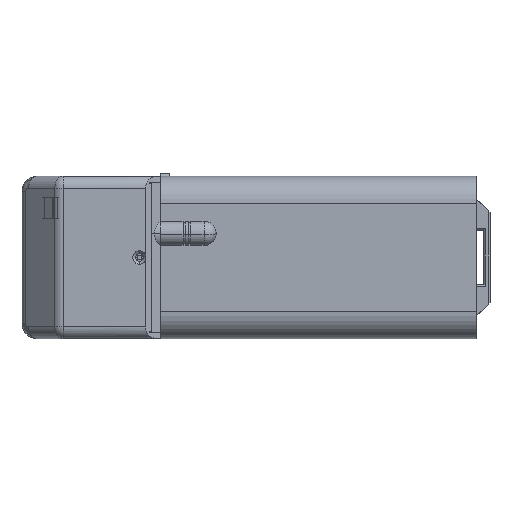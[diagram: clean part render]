
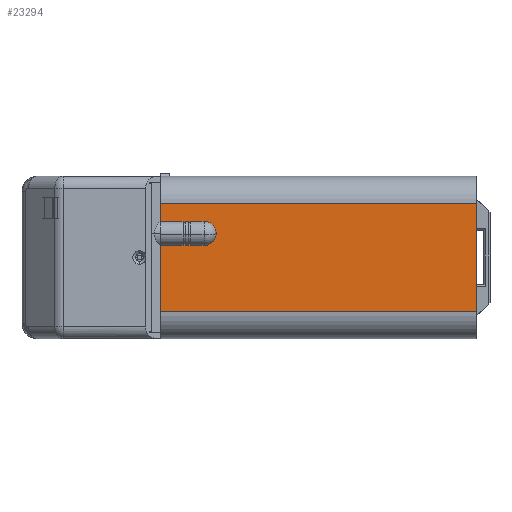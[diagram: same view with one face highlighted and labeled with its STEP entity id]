
A CAD part, left-side view. The second image highlights one B-rep face of the part: STEP entity #23294.
In plain terms, the highlighted planar face has unit normal (-1, 0, 0) as drawn and (0, 0, -1) by its records, which use the part's own axes.
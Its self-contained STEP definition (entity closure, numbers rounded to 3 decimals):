
#654 = ORIENTED_EDGE ( 'NONE', *, *, #25259, .T. ) ;
#1557 = VERTEX_POINT ( 'NONE', #4711 ) ;
#3762 = VECTOR ( 'NONE', #13504, 1000. ) ;
#4168 = CARTESIAN_POINT ( 'NONE',  ( 9., 105., -39. ) ) ;
#4711 = CARTESIAN_POINT ( 'NONE',  ( 9., 0., -39. ) ) ;
#5101 = AXIS2_PLACEMENT_3D ( 'NONE', #8714, #26632, #11396 ) ;
#5756 = VERTEX_POINT ( 'NONE', #20051 ) ;
#6206 = CARTESIAN_POINT ( 'NONE',  ( 45., 105., -39. ) ) ;
#6704 = DIRECTION ( 'NONE',  ( 1., 0., 0. ) ) ;
#8098 = VECTOR ( 'NONE', #6704, 1000. ) ;
#8714 = CARTESIAN_POINT ( 'NONE',  ( 9., 105., -39. ) ) ;
#8928 = CARTESIAN_POINT ( 'NONE',  ( 45., 0., -39. ) ) ;
#9269 = ORIENTED_EDGE ( 'NONE', *, *, #23094, .F. ) ;
#9722 = DIRECTION ( 'NONE',  ( 0., -1., 0. ) ) ;
#11396 = DIRECTION ( 'NONE',  ( -1., 0., 0. ) ) ;
#13504 = DIRECTION ( 'NONE',  ( 0., -1., 0. ) ) ;
#15631 = CARTESIAN_POINT ( 'NONE',  ( 9., 0., -39. ) ) ;
#18032 = VERTEX_POINT ( 'NONE', #8928 ) ;
#18109 = VECTOR ( 'NONE', #30962, 1000. ) ;
#19082 = VERTEX_POINT ( 'NONE', #6206 ) ;
#20051 = CARTESIAN_POINT ( 'NONE',  ( 9., 105., -39. ) ) ;
#20065 = FACE_OUTER_BOUND ( 'NONE', #26797, .T. ) ;
#20733 = LINE ( 'NONE', #27520, #26726 ) ;
#22462 = LINE ( 'NONE', #26195, #3762 ) ;
#23094 = EDGE_CURVE ( 'NONE', #1557, #18032, #24871, .T. ) ;
#23191 = EDGE_CURVE ( 'NONE', #5756, #1557, #22462, .T. ) ;
#23294 = ADVANCED_FACE ( 'NONE', ( #20065 ), #31618, .T. ) ;
#24871 = LINE ( 'NONE', #15631, #18109 ) ;
#25259 = EDGE_CURVE ( 'NONE', #19082, #18032, #20733, .T. ) ;
#26195 = CARTESIAN_POINT ( 'NONE',  ( 9., 105., -39. ) ) ;
#26610 = ORIENTED_EDGE ( 'NONE', *, *, #23191, .F. ) ;
#26632 = DIRECTION ( 'NONE',  ( 0., 0., -1. ) ) ;
#26726 = VECTOR ( 'NONE', #9722, 1000. ) ;
#26797 = EDGE_LOOP ( 'NONE', ( #9269, #26610, #27309, #654 ) ) ;
#27309 = ORIENTED_EDGE ( 'NONE', *, *, #32670, .T. ) ;
#27520 = CARTESIAN_POINT ( 'NONE',  ( 45., 105., -39. ) ) ;
#29998 = LINE ( 'NONE', #4168, #8098 ) ;
#30962 = DIRECTION ( 'NONE',  ( 1., 0., 0. ) ) ;
#31618 = PLANE ( 'NONE',  #5101 ) ;
#32670 = EDGE_CURVE ( 'NONE', #5756, #19082, #29998, .T. ) ;
